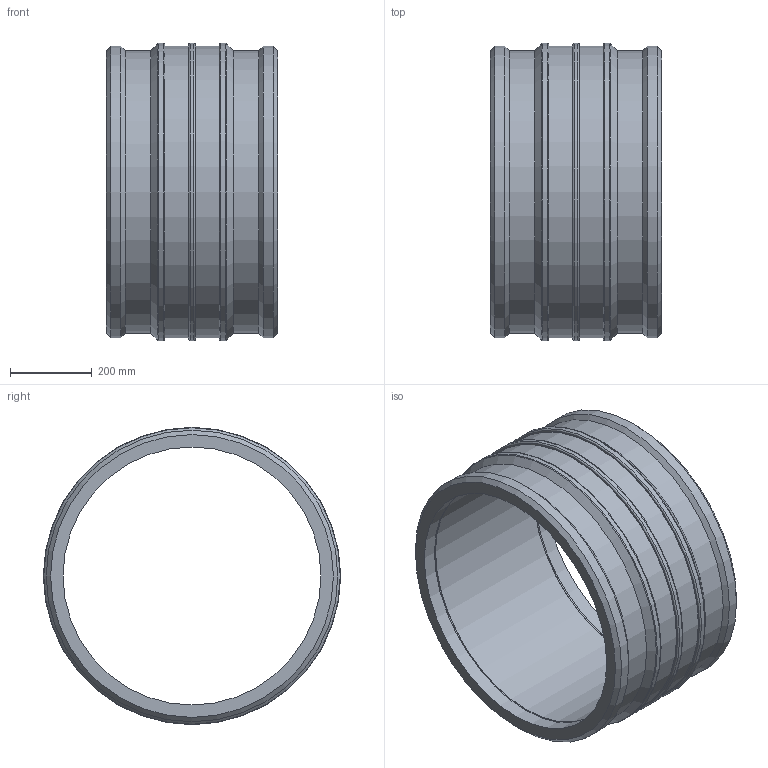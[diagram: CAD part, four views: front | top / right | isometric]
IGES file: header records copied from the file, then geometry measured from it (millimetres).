
Global section: file name: 460103630.ipt; native system: Autodesk Inventor 2015; preprocessor: unknown; author: KIM; date: 20190124.125936; units: millimetre
Bounding box: 418 x 726 x 726 mm (x, y, z)
Volume: 33265086.7 mm3; surface area: 2006635.9 mm2
Topology: 1 solids, 1 shells, 48 faces, 106 edges, 70 vertices
Faces by surface type: cylinder 15, plane 14, revolution 13, cone 6
Full cylindrical faces by diameter (mm): 4 x2, 690.64 x2, 711.48 x2, 712 x2, 726 x3
